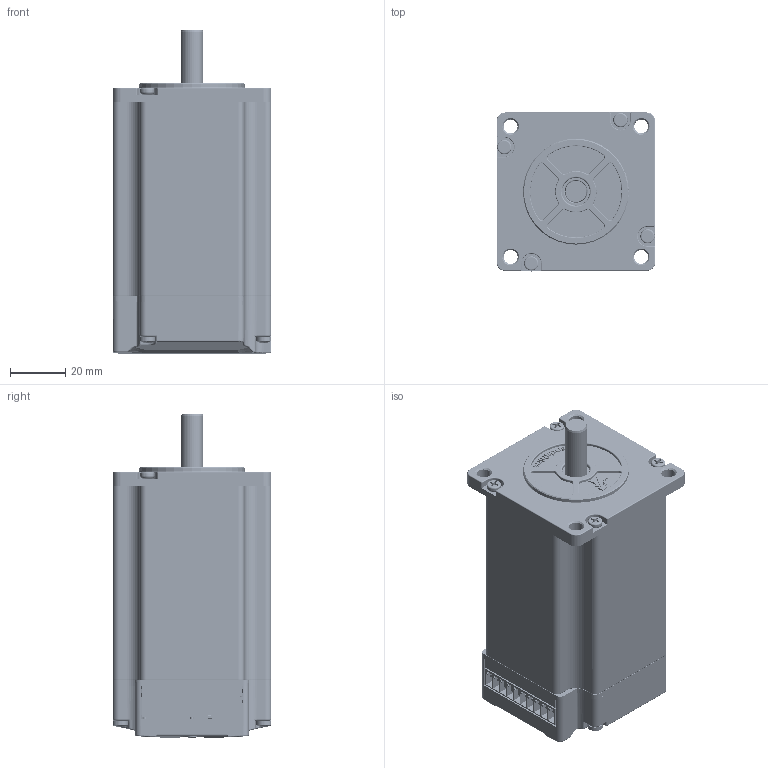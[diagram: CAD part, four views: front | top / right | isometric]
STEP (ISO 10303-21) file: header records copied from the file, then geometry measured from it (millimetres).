
FILE_DESCRIPTION((''),'2;1');
FILE_NAME('ASM0001_ASM','2022-02-22T',('gngxm10'),(''),'PRO/ENGINEER BY PARAMETRIC TECHNOLOGY CORPORATION, 2015240','PRO/ENGINEER BY PARAMETRIC TECHNOLOGY CORPORATION, 2015240','');
FILE_SCHEMA(('AUTOMOTIVE_DESIGN { 1 2 10303 214 0 1 1 1 }'));
Products named in the file (34): LD823_M3X69_1_1; DG57HSD-005-S06_1_2; __12-__8-3_0_1_1; CG35SH_1_1; 608ZZ_1_1; ZZTX57HSD10_5-S1_1_1; GCP57HS_1_1; Z57HS76MD21B15-05_1_1; __12-__8-4_7_1_1; ZZ57HS076DF038X-S4_ASM_1_ASM_AS_ASM; DZTX57HSD53-S1_1_1; CGCGT__14-__12-5_5_1_1; GJ57HSD26-S01_1_1; DG57HSD-004-S02_1_1; ASM0001_ASM_1_ASM_ASM_1_ASM; 57HS076DF038X-S4_ASM_1_ASM_ASM__ASM; ICL57CM22C-B15_ASM; ZJ_ICL57_4; PCB_ICL57_4; HEADER_2_0_4X_1; 1_27CB_1; 200S_10P_1; 2068320401_1; PCB_ICL57_ASM_2_ASM_ASM_ASM_ASM_ASM; ____-3-6_1; BREP_2_1; AL_ICL57_22_14; PRT0003_5; ASM_ICL57_ASM_19_ASM_ASM_ASM_AS_ASM; ICL57_ASM_ASM_ASM; ICL57-23_V2_0__3D_2__ASM_ASM; ICL57CM12C-B15_ASM_ASM; ICL57-13_V2_0_ASM; ASM0001_ASM
Assembly tree (45 placements, depth 8):
  ASM0001_ASM
    ICL57CM22C-B15_ASM
      57HS076DF038X-S4_ASM_1_ASM_ASM__ASM
        ASM0001_ASM_1_ASM_ASM_1_ASM
          LD823_M3X69_1_1  x4
          DG57HSD-005-S06_1_2
          ZZ57HS076DF038X-S4_ASM_1_ASM_AS_ASM
            __12-__8-3_0_1_1
            CG35SH_1_1  x2
            608ZZ_1_1  x2
            ZZTX57HSD10_5-S1_1_1  x4
            GCP57HS_1_1
            Z57HS76MD21B15-05_1_1
            __12-__8-4_7_1_1
          DZTX57HSD53-S1_1_1
          CGCGT__14-__12-5_5_1_1
          GJ57HSD26-S01_1_1  x2
          DG57HSD-004-S02_1_1
    ICL57-13_V2_0_ASM
      ICL57CM12C-B15_ASM_ASM
        ICL57-23_V2_0__3D_2__ASM_ASM
          ICL57_ASM_ASM_ASM
            ASM_ICL57_ASM_19_ASM_ASM_ASM_AS_ASM
              ZJ_ICL57_4
              PCB_ICL57_ASM_2_ASM_ASM_ASM_ASM_ASM
                PCB_ICL57_4
                HEADER_2_0_4X_1
                1_27CB_1
                200S_10P_1
                2068320401_1
              ____-3-6_1  x4
              BREP_2_1
              AL_ICL57_22_14
              PRT0003_5
Bounding box: 57.27 x 57.34 x 117.34 mm (x, y, z)
Volume: 192018.3 mm3; surface area: 162193.4 mm2
Topology: 35 solids, 35 shells, 6852 faces, 18750 edges, 11983 vertices
Faces by surface type: plane 2738, cylinder 2262, cone 1437, torus 188, sphere 97, extrusion 82, bspline 48
Entity records: 140548 total; most frequent: CARTESIAN_POINT 26601, ORIENTED_EDGE 21224, DIRECTION 21021, EDGE_CURVE 10612, AXIS2_PLACEMENT_3D 7175, VERTEX_POINT 6888, VECTOR 6671, LINE 6589
